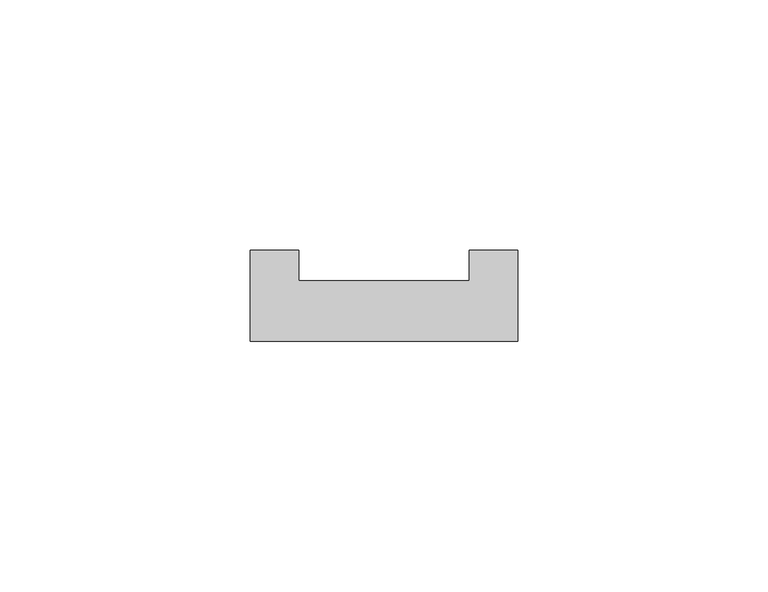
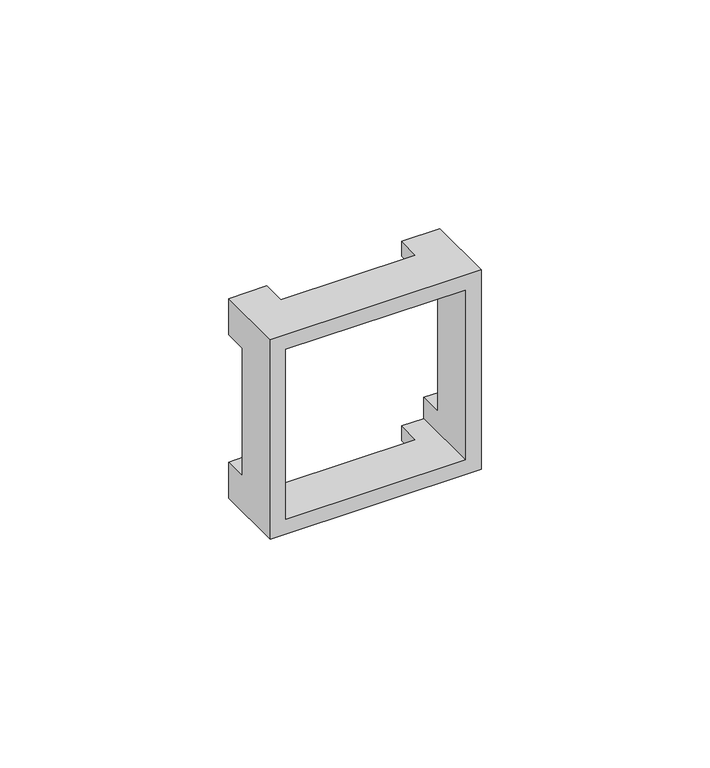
"""IFC4 building model written with IfcOpenShell, lengths in millimetres: proxy geometry."""

from ifc_helpers import new_model, si_unit, origin, place, context, project, spatial, faceted_brep, source, transform, mapped, element, save


def electrical_fixtures_7d6d6c28(model_context):
    return source(origin(), model_context, "Body", "Brep", [
        faceted_brep([(26.65, 18.1, -17.0), (26.65, 18.1, -26.65), (17.0, 18.1, -26.65), (17.0, 18.1, -22.65), (22.65, 18.1, -22.65), (22.65, 18.1, -17.0), (26.65, 18.1, 26.65), (26.65, 18.1, 17.0), (22.65, 18.1, 17.0), (22.65, 18.1, 22.65), (17.0, 18.1, 22.65), (17.0, 18.1, 26.65), (-26.65, 18.1, -26.65), (-26.65, 18.1, -17.0), (-22.65, 18.1, -17.0), (-22.65, 18.1, -22.65), (-17.0, 18.1, -22.65), (-17.0, 18.1, -26.65), (-26.65, 18.1, 17.0), (-26.65, 18.1, 26.65), (-17.0, 18.1, 26.65), (-17.0, 18.1, 22.65), (-22.65, 18.1, 22.65), (-22.65, 18.1, 17.0), (26.65, 0.0, -26.65), (26.65, 0.0, 26.65), (-26.65, 0.0, 26.65), (-26.65, 0.0, -26.65), (22.65, 0.0, -22.65), (-22.65, 0.0, -22.65), (-22.65, 0.0, 22.65), (22.65, 0.0, 22.65), (26.65, 12.0483806, -17.0), (26.65, 12.0483806, 17.0), (17.0, 12.0483806, 26.65), (-17.0, 12.0483806, 26.65), (-26.65, 12.0483806, 17.0), (-26.65, 12.0483806, -17.0), (-17.0, 12.0483806, -26.65), (17.0, 12.0483806, -26.65), (17.0, 12.0483806, -22.65), (-17.0, 12.0483806, -22.65), (-22.65, 12.0483806, -17.0), (-22.65, 12.0483806, 17.0), (-17.0, 12.0483806, 22.65), (17.0, 12.0483806, 22.65), (22.65, 12.0483806, 17.0), (22.65, 12.0483806, -17.0)], [[[0, 1, 2, 3, 4, 5]], [[6, 7, 8, 9, 10, 11]], [[12, 13, 14, 15, 16, 17]], [[18, 19, 20, 21, 22, 23]], [[24, 25, 26, 27], [28, 29, 30, 31]], [[25, 24, 1, 0, 32, 33, 7, 6]], [[26, 25, 6, 11, 34, 35, 20, 19]], [[27, 26, 19, 18, 36, 37, 13, 12]], [[24, 27, 12, 17, 38, 39, 2, 1]], [[29, 28, 4, 3, 40, 41, 16, 15]], [[30, 29, 15, 14, 42, 43, 23, 22]], [[31, 30, 22, 21, 44, 45, 10, 9]], [[28, 31, 9, 8, 46, 47, 5, 4]], [[37, 42, 14, 13]], [[47, 32, 0, 5]], [[43, 36, 18, 23]], [[33, 46, 8, 7]], [[42, 37, 36, 43]], [[32, 47, 46, 33]], [[41, 38, 17, 16]], [[35, 44, 21, 20]], [[39, 40, 3, 2]], [[45, 34, 11, 10]], [[40, 39, 38, 41]], [[34, 45, 44, 35]]]),
    ])


if __name__ == "__main__":
    model = new_model("IFC4")
    model_context = context("Model", 3, world=origin())
    ifc_project = project(units=[si_unit("LENGTHUNIT", "METRE", prefix="MILLI")], contexts=[model_context])
    site = spatial("IfcSite", under=ifc_project)
    building = spatial("IfcBuilding", under=site)
    placement = place(None, origin())
    electrical_fixtures_shape = electrical_fixtures_7d6d6c28(model_context)
    element("IfcBuildingElementProxy", 1, Name="Electrical Fixtures", at=placement, inside=building, context=model_context, shape_type="MappedRepresentation", body=[
        mapped(electrical_fixtures_shape, transform((0.0, 0.0, 0.0), x_axis=(1.0, 0.0, 0.0), y_axis=(0.0, 1.0, 0.0), z_axis=(0.0, 0.0, 1.0))),
    ])
    save(model, "model.ifc")
